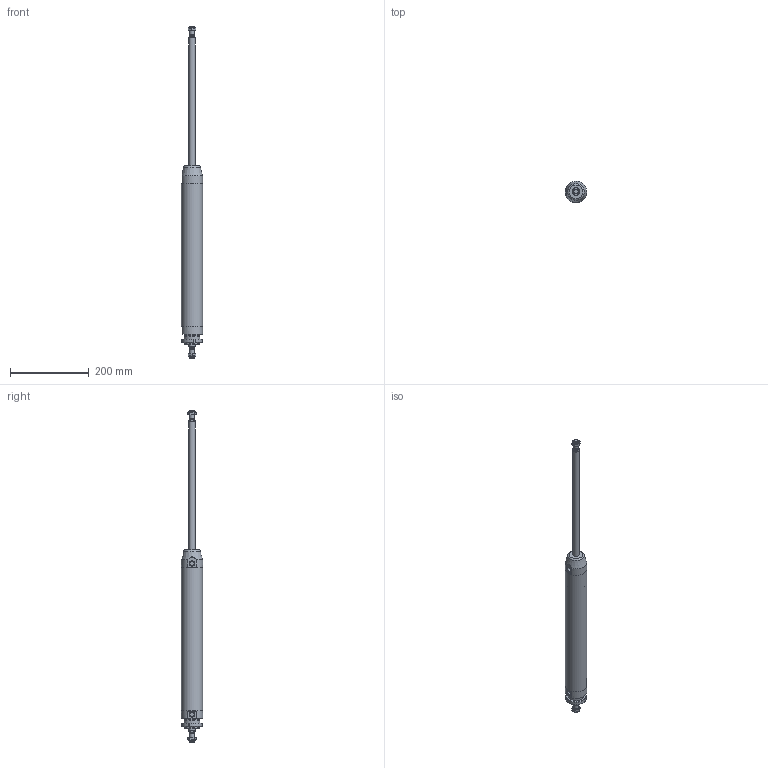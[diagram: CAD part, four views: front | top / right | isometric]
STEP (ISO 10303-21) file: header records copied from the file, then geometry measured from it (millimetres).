
FILE_DESCRIPTION(/* description */ (''),/* implementation_level */ '2;1');
FILE_NAME(/* name */ 'I:\Area Tecnica\Documenti\A-Manieri\_Inventor\12X\12X#T_###_####_#_#\12XCT_050_0320_#_#.stp',/* time_stamp */ '2015-05-13T08:46:31+02:00',/* author */ ('maniean1'),/* organization */ ('Pneumax S.p.A.'),/* preprocessor_version */ 'ST-DEVELOPER v15.2',/* originating_system */ 'Autodesk Inventor 2014',/* authorisation */ '');
FILE_SCHEMA (('AUTOMOTIVE_DESIGN { 1 0 10303 214 3 1 1 }'));
Length unit declared in the file: millimetre
Products named in the file (7): C1250_619-0320; 12X50_604; SP12X50_0320; 12X_50_11; 12X50_613; G12X_050_05; 12XCT_050_0320_#_#
Bounding box: 54 x 54 x 842 mm (x, y, z)
Volume: 516989 mm3; surface area: 201123.4 mm2
Topology: 7 solids, 7 shells, 107 faces, 238 edges, 152 vertices
Faces by surface type: plane 54, cylinder 26, cone 26, torus 1
Full cylindrical faces by diameter (mm): 10.2 x2, 11.4 x2, 12 x4, 14 x2, 15.6 x2, 16 x2, 38.2 x1, 40 x3, 50 x2, 54 x3
Entity records: 2546 total; most frequent: CARTESIAN_POINT 474, DIRECTION 433, ORIENTED_EDGE 338, AXIS2_PLACEMENT_3D 187, EDGE_CURVE 169, EDGE_LOOP 150, VERTEX_POINT 129, ADVANCED_FACE 96
